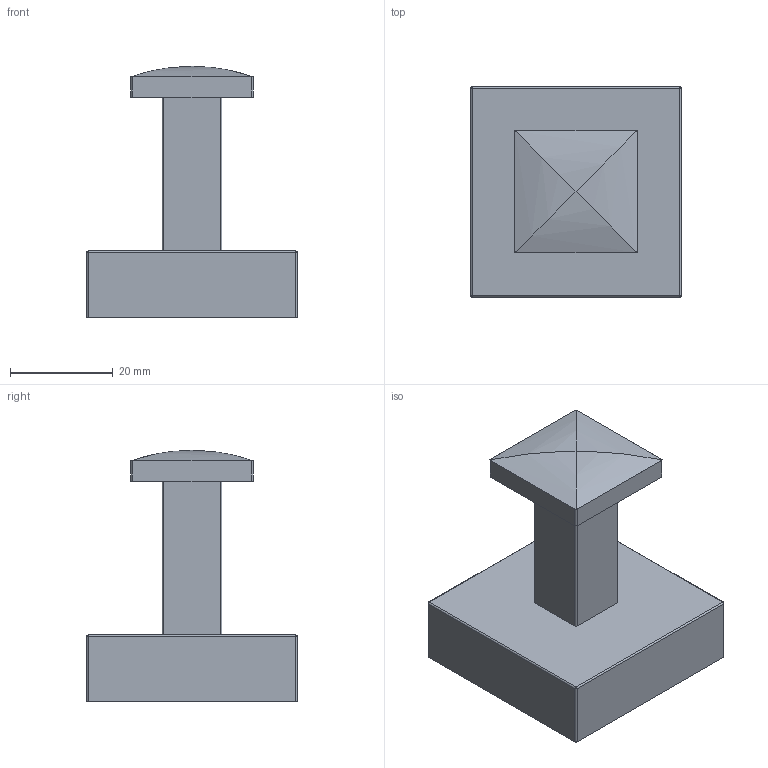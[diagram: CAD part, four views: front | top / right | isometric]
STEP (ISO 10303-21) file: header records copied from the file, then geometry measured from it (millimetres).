
FILE_DESCRIPTION(/* description */ (''),/* implementation_level */ '2;1');
FILE_NAME(/* name */ 'c:\worker\convert-fusion-r06\tmp\job-1\4\output\files\db14c512-0ba8-42ea-be58-9acff9a225c8\23d6179c-9354-4560-867d-db6947668dd0.stp',/* time_stamp */ '2019-08-26T09:42:43+00:00',/* author */ (''),/* organization */ (''),/* preprocessor_version */ 'ST-DEVELOPER v18',/* originating_system */ 'Autodesk Translation Framework v8.6.0.1094',/* authorisation */ '');
FILE_SCHEMA (('AUTOMOTIVE_DESIGN { 1 0 10303 214 3 1 1 }'));
Length unit declared in the file: millimetre
Products named in the file (1): 8154A
Bounding box: 41 x 41 x 49 mm (x, y, z)
Volume: 15461.4 mm3; surface area: 10730.6 mm2
Topology: 2 solids, 2 shells, 46 faces, 104 edges, 65 vertices
Faces by surface type: plane 22, cylinder 20, sphere 4
Entity records: 1312 total; most frequent: DIRECTION 234, CARTESIAN_POINT 216, ORIENTED_EDGE 208, EDGE_CURVE 104, AXIS2_PLACEMENT_3D 83, LINE 68, VECTOR 68, VERTEX_POINT 65
